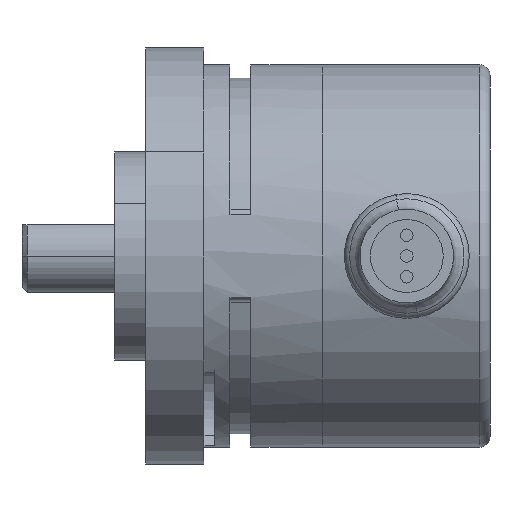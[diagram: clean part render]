
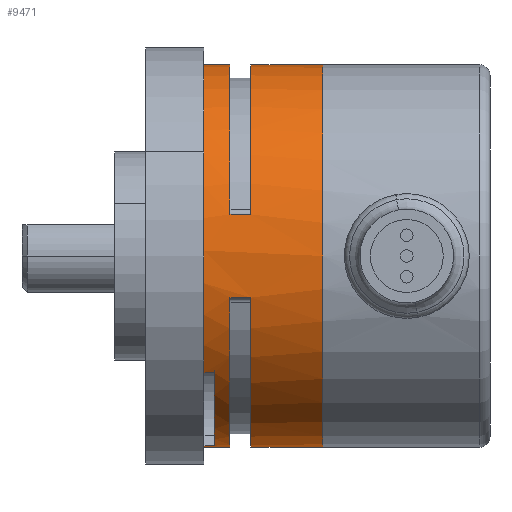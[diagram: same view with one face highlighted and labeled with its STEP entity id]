
A CAD part, front view. The second image highlights one B-rep face of the part: STEP entity #9471.
In plain terms, the highlighted cylindrical face has radius 18.4 mm (diameter 36.8 mm), a partial arc.
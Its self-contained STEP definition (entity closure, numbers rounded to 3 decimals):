
#2537 = CARTESIAN_POINT ( 'NONE',  ( -35.711, 5.115, -18.4 ) ) ;
#2538 = CARTESIAN_POINT ( 'NONE',  ( -35.711, 5.115, 18.4 ) ) ;
#2605 = CARTESIAN_POINT ( 'NONE',  ( -44.611, 5.115, -18.4 ) ) ;
#2632 = CARTESIAN_POINT ( 'NONE',  ( -47.111, 5.115, -18.4 ) ) ;
#2633 = DIRECTION ( 'NONE',  ( -1., 0., 0. ) ) ;
#2634 = VECTOR ( 'NONE', #2633, 1000. ) ;
#2635 = CARTESIAN_POINT ( 'NONE',  ( -52.111, 5.115, -18.4 ) ) ;
#2636 = LINE ( 'NONE', #2635, #2634 ) ;
#2647 = CARTESIAN_POINT ( 'NONE',  ( -42.611, 5.115, -18.4 ) ) ;
#2648 = DIRECTION ( 'NONE',  ( -1., 0., 0. ) ) ;
#2649 = VECTOR ( 'NONE', #2648, 1000. ) ;
#2650 = CARTESIAN_POINT ( 'NONE',  ( -52.111, 5.115, -18.4 ) ) ;
#2651 = LINE ( 'NONE', #2650, #2649 ) ;
#2673 = DIRECTION ( 'NONE',  ( -1., 0., 0. ) ) ;
#2674 = VECTOR ( 'NONE', #2673, 1000. ) ;
#2675 = CARTESIAN_POINT ( 'NONE',  ( -52.111, 5.115, 18.4 ) ) ;
#2676 = LINE ( 'NONE', #2675, #2674 ) ;
#2677 = CARTESIAN_POINT ( 'NONE',  ( -42.611, 5.115, 18.4 ) ) ;
#2684 = CARTESIAN_POINT ( 'NONE',  ( -44.611, 5.115, 18.4 ) ) ;
#2685 = DIRECTION ( 'NONE',  ( -1., 0., 0. ) ) ;
#2686 = VECTOR ( 'NONE', #2685, 1000. ) ;
#2687 = CARTESIAN_POINT ( 'NONE',  ( -52.111, 5.115, 18.4 ) ) ;
#2688 = LINE ( 'NONE', #2687, #2686 ) ;
#2689 = CARTESIAN_POINT ( 'NONE',  ( -47.111, 5.115, 18.4 ) ) ;
#6452 = DIRECTION ( 'NONE',  ( 0., 0., -1. ) ) ;
#6453 = DIRECTION ( 'NONE',  ( 1., 0., 0. ) ) ;
#6454 = CARTESIAN_POINT ( 'NONE',  ( -42.611, 5.115, 0. ) ) ;
#6455 = AXIS2_PLACEMENT_3D ( 'NONE', #6454, #6453, #6452 ) ;
#6461 = CIRCLE ( 'NONE', #6455, 18.4 ) ;
#6507 = DIRECTION ( 'NONE',  ( -1., 0., 0. ) ) ;
#6508 = VECTOR ( 'NONE', #6507, 1000. ) ;
#6509 = CARTESIAN_POINT ( 'NONE',  ( -42.611, -12.845, -4. ) ) ;
#6510 = LINE ( 'NONE', #6509, #6508 ) ;
#6512 = CARTESIAN_POINT ( 'NONE',  ( -42.611, -12.845, -4. ) ) ;
#7610 = ORIENTED_EDGE ( 'NONE', *, *, #9416, .F. ) ;
#7611 = EDGE_CURVE ( 'NONE', #7620, #9426, #14487, .T. ) ;
#7612 = ORIENTED_EDGE ( 'NONE', *, *, #7613, .F. ) ;
#7613 = EDGE_CURVE ( 'NONE', #7614, #11537, #14479, .T. ) ;
#7614 = VERTEX_POINT ( 'NONE', #14474 ) ;
#7615 = ORIENTED_EDGE ( 'NONE', *, *, #11555, .F. ) ;
#7616 = EDGE_CURVE ( 'NONE', #7617, #7620, #14473, .T. ) ;
#7617 = VERTEX_POINT ( 'NONE', #14468 ) ;
#7618 = ORIENTED_EDGE ( 'NONE', *, *, #7611, .F. ) ;
#7619 = ORIENTED_EDGE ( 'NONE', *, *, #9425, .F. ) ;
#7620 = VERTEX_POINT ( 'NONE', #14518 ) ;
#7621 = ORIENTED_EDGE ( 'NONE', *, *, #7616, .F. ) ;
#7622 = ORIENTED_EDGE ( 'NONE', *, *, #7623, .T. ) ;
#7623 = EDGE_CURVE ( 'NONE', #7617, #9414, #14517, .T. ) ;
#9414 = VERTEX_POINT ( 'NONE', #21484 ) ;
#9416 = EDGE_CURVE ( 'NONE', #11556, #9414, #21540, .T. ) ;
#9425 = EDGE_CURVE ( 'NONE', #9426, #11559, #21515, .T. ) ;
#9426 = VERTEX_POINT ( 'NONE', #21567 ) ;
#9464 = ORIENTED_EDGE ( 'NONE', *, *, #9467, .T. ) ;
#9465 = VERTEX_POINT ( 'NONE', #21701 ) ;
#9466 = ORIENTED_EDGE ( 'NONE', *, *, #11568, .T. ) ;
#9467 = EDGE_CURVE ( 'NONE', #11566, #9465, #21700, .T. ) ;
#9468 = EDGE_CURVE ( 'NONE', #11493, #11492, #21694, .T. ) ;
#9469 = ORIENTED_EDGE ( 'NONE', *, *, #9468, .T. ) ;
#9470 = ORIENTED_EDGE ( 'NONE', *, *, #11546, .F. ) ;
#9471 = ADVANCED_FACE ( 'NONE', ( #21689 ), #21728, .T. ) ;
#9472 = EDGE_LOOP ( 'NONE', ( #9470, #9469, #9466, #9464, #9993, #9995, #9990, #7619, #7618, #7621, #7622, #7610, #7615, #7612, #19163, #19170 ) ) ;
#9990 = ORIENTED_EDGE ( 'NONE', *, *, #11561, .T. ) ;
#9991 = VERTEX_POINT ( 'NONE', #23630 ) ;
#9992 = EDGE_CURVE ( 'NONE', #11562, #9991, #23628, .T. ) ;
#9993 = ORIENTED_EDGE ( 'NONE', *, *, #9994, .T. ) ;
#9994 = EDGE_CURVE ( 'NONE', #9465, #9991, #23629, .T. ) ;
#9995 = ORIENTED_EDGE ( 'NONE', *, *, #9992, .F. ) ;
#11492 = VERTEX_POINT ( 'NONE', #2538 ) ;
#11493 = VERTEX_POINT ( 'NONE', #2537 ) ;
#11537 = VERTEX_POINT ( 'NONE', #2605 ) ;
#11546 = EDGE_CURVE ( 'NONE', #11493, #11547, #2651, .T. ) ;
#11547 = VERTEX_POINT ( 'NONE', #2647 ) ;
#11555 = EDGE_CURVE ( 'NONE', #11537, #11556, #2636, .T. ) ;
#11556 = VERTEX_POINT ( 'NONE', #2632 ) ;
#11559 = VERTEX_POINT ( 'NONE', #2689 ) ;
#11561 = EDGE_CURVE ( 'NONE', #11562, #11559, #2688, .T. ) ;
#11562 = VERTEX_POINT ( 'NONE', #2684 ) ;
#11566 = VERTEX_POINT ( 'NONE', #2677 ) ;
#11568 = EDGE_CURVE ( 'NONE', #11492, #11566, #2676, .T. ) ;
#14468 = CARTESIAN_POINT ( 'NONE',  ( -46.111, 2.669, -18.237 ) ) ;
#14469 = DIRECTION ( 'NONE',  ( 0., 0., 1. ) ) ;
#14470 = DIRECTION ( 'NONE',  ( -1., 0., 0. ) ) ;
#14471 = CARTESIAN_POINT ( 'NONE',  ( -46.111, 5.115, 0. ) ) ;
#14472 = AXIS2_PLACEMENT_3D ( 'NONE', #14471, #14470, #14469 ) ;
#14473 = CIRCLE ( 'NONE', #14472, 18.4 ) ;
#14474 = CARTESIAN_POINT ( 'NONE',  ( -44.611, -12.845, -4. ) ) ;
#14475 = DIRECTION ( 'NONE',  ( 0., 0., -1. ) ) ;
#14476 = DIRECTION ( 'NONE',  ( 1., 0., 0. ) ) ;
#14477 = CARTESIAN_POINT ( 'NONE',  ( -44.611, 5.115, 0. ) ) ;
#14478 = AXIS2_PLACEMENT_3D ( 'NONE', #14477, #14476, #14475 ) ;
#14479 = CIRCLE ( 'NONE', #14478, 18.4 ) ;
#14480 = DIRECTION ( 'NONE',  ( -1., 0., 0. ) ) ;
#14481 = VECTOR ( 'NONE', #14480, 1000. ) ;
#14482 = CARTESIAN_POINT ( 'NONE',  ( -46.111, -9.456, -11.237 ) ) ;
#14487 = LINE ( 'NONE', #14482, #14481 ) ;
#14514 = DIRECTION ( 'NONE',  ( -1., 0., 0. ) ) ;
#14515 = VECTOR ( 'NONE', #14514, 1000. ) ;
#14516 = CARTESIAN_POINT ( 'NONE',  ( -46.111, 2.669, -18.237 ) ) ;
#14517 = LINE ( 'NONE', #14516, #14515 ) ;
#14518 = CARTESIAN_POINT ( 'NONE',  ( -46.111, -9.456, -11.237 ) ) ;
#19162 = EDGE_CURVE ( 'NONE', #19179, #11547, #6461, .T. ) ;
#19163 = ORIENTED_EDGE ( 'NONE', *, *, #19180, .F. ) ;
#19170 = ORIENTED_EDGE ( 'NONE', *, *, #19162, .T. ) ;
#19179 = VERTEX_POINT ( 'NONE', #6512 ) ;
#19180 = EDGE_CURVE ( 'NONE', #19179, #7614, #6510, .T. ) ;
#21484 = CARTESIAN_POINT ( 'NONE',  ( -47.111, 2.669, -18.237 ) ) ;
#21515 = CIRCLE ( 'NONE', #21571, 18.4 ) ;
#21536 = DIRECTION ( 'NONE',  ( 0., 0., 1. ) ) ;
#21537 = DIRECTION ( 'NONE',  ( -1., 0., 0. ) ) ;
#21538 = CARTESIAN_POINT ( 'NONE',  ( -47.111, 5.115, 0. ) ) ;
#21539 = AXIS2_PLACEMENT_3D ( 'NONE', #21538, #21537, #21536 ) ;
#21540 = CIRCLE ( 'NONE', #21539, 18.4 ) ;
#21567 = CARTESIAN_POINT ( 'NONE',  ( -47.111, -9.456, -11.237 ) ) ;
#21568 = DIRECTION ( 'NONE',  ( 0., 0., 1. ) ) ;
#21569 = DIRECTION ( 'NONE',  ( -1., 0., 0. ) ) ;
#21570 = CARTESIAN_POINT ( 'NONE',  ( -47.111, 5.115, 0. ) ) ;
#21571 = AXIS2_PLACEMENT_3D ( 'NONE', #21570, #21569, #21568 ) ;
#21689 = FACE_OUTER_BOUND ( 'NONE', #9472, .T. ) ;
#21690 = DIRECTION ( 'NONE',  ( 0., 0., 1. ) ) ;
#21691 = DIRECTION ( 'NONE',  ( -1., 0., 0. ) ) ;
#21692 = CARTESIAN_POINT ( 'NONE',  ( -35.711, 5.115, 0. ) ) ;
#21693 = AXIS2_PLACEMENT_3D ( 'NONE', #21692, #21691, #21690 ) ;
#21694 = CIRCLE ( 'NONE', #21693, 18.4 ) ;
#21696 = DIRECTION ( 'NONE',  ( 0., 0., -1. ) ) ;
#21697 = DIRECTION ( 'NONE',  ( 1., 0., 0. ) ) ;
#21698 = CARTESIAN_POINT ( 'NONE',  ( -42.611, 5.115, 0. ) ) ;
#21699 = AXIS2_PLACEMENT_3D ( 'NONE', #21698, #21697, #21696 ) ;
#21700 = CIRCLE ( 'NONE', #21699, 18.4 ) ;
#21701 = CARTESIAN_POINT ( 'NONE',  ( -42.611, -12.845, 4. ) ) ;
#21725 = DIRECTION ( 'NONE',  ( 0., 0., 1. ) ) ;
#21726 = DIRECTION ( 'NONE',  ( -1., 0., 0. ) ) ;
#21727 = AXIS2_PLACEMENT_3D ( 'NONE', #21729, #21726, #21725 ) ;
#21728 = CYLINDRICAL_SURFACE ( 'NONE', #21727, 18.4 ) ;
#21729 = CARTESIAN_POINT ( 'NONE',  ( -52.111, 5.115, 0. ) ) ;
#23621 = DIRECTION ( 'NONE',  ( -1., 0., 0. ) ) ;
#23622 = VECTOR ( 'NONE', #23621, 1000. ) ;
#23623 = CARTESIAN_POINT ( 'NONE',  ( -42.611, -12.845, 4. ) ) ;
#23624 = DIRECTION ( 'NONE',  ( 0., 0., -1. ) ) ;
#23625 = DIRECTION ( 'NONE',  ( 1., 0., 0. ) ) ;
#23626 = CARTESIAN_POINT ( 'NONE',  ( -44.611, 5.115, 0. ) ) ;
#23627 = AXIS2_PLACEMENT_3D ( 'NONE', #23626, #23625, #23624 ) ;
#23628 = CIRCLE ( 'NONE', #23627, 18.4 ) ;
#23629 = LINE ( 'NONE', #23623, #23622 ) ;
#23630 = CARTESIAN_POINT ( 'NONE',  ( -44.611, -12.845, 4. ) ) ;
